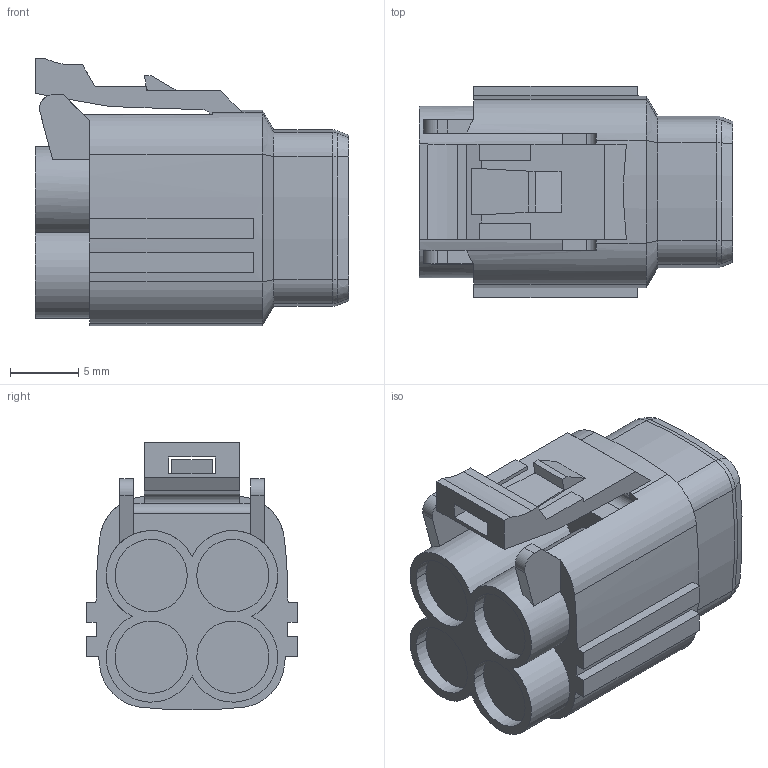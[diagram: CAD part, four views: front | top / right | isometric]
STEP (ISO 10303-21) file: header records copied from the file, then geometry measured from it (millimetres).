
FILE_DESCRIPTION(('CATIA V5 STEP Exchange','CAx-IF Rec.Pracs.--- Model Styling and Organization---1.2---2011-12-15'),'2;1');
FILE_NAME('N:\C-DAM_MyDesk\ENV\900093\6180-4771.stp','2015-01-22T05:18:03+00:00',('none'),('none'),'CATIA Version 5-6 Release 2012 SP4 HF74','CATIA V5 STEP AP214','none');
FILE_SCHEMA(('AUTOMOTIVE_DESIGN { 1 0 10303 214 1 1 1 1 }'));
Length unit declared in the file: millimetre
Products named in the file (1): 6180-4771
Bounding box: 23 x 15.5 x 19.67 mm (x, y, z)
Volume: 3745.8 mm3; surface area: 2415.9 mm2
Topology: 1 solids, 1 shells, 151 faces, 386 edges, 246 vertices
Faces by surface type: plane 94, cylinder 31, cone 16, torus 8, bspline 2
Entity records: 4377 total; most frequent: CARTESIAN_POINT 868, ORIENTED_EDGE 772, DIRECTION 607, EDGE_CURVE 386, VECTOR 278, LINE 278, VERTEX_POINT 246, AXIS2_PLACEMENT_3D 215
